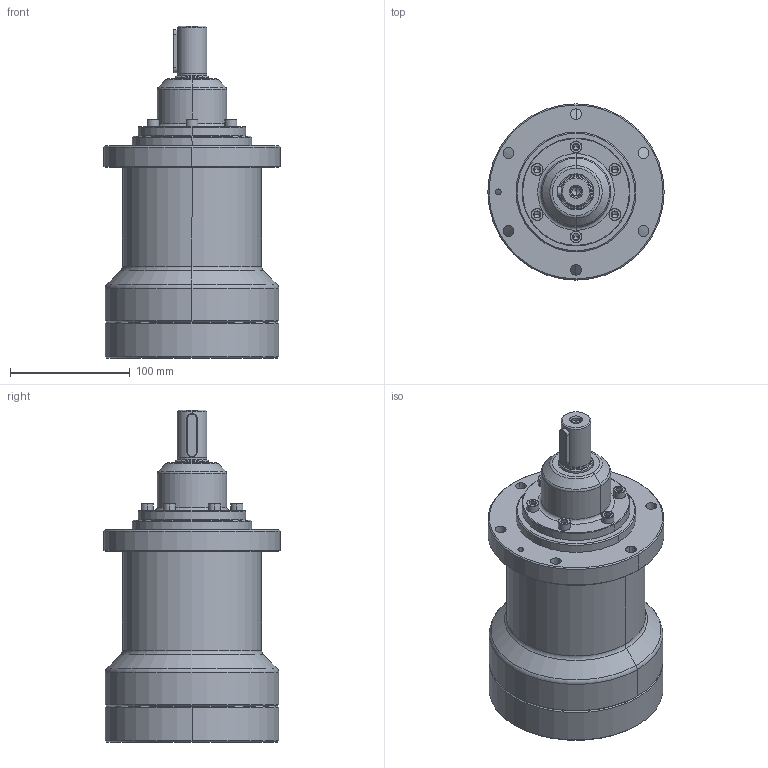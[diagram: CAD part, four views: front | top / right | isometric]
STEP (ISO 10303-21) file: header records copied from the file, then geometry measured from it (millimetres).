
FILE_DESCRIPTION((''),'2;1');
FILE_NAME('M12F43B','2023-10-19T',('HYC'),(''),'PRO/ENGINEER BY PARAMETRIC TECHNOLOGY CORPORATION, 2010280','PRO/ENGINEER BY PARAMETRIC TECHNOLOGY CORPORATION, 2010280','');
FILE_SCHEMA(('CONFIG_CONTROL_DESIGN'));
Length unit declared in the file: millimetre
Products named in the file (1): M12F43B
Bounding box: 147 x 147 x 277 mm (x, y, z)
Surface area: 164401.6 mm2 (no closed solid volume)
Topology: 0 solids, 26 shells, 377 faces, 939 edges, 562 vertices
Faces by surface type: cone 172, cylinder 94, plane 91, torus 16, bspline 4
Entity records: 12240 total; most frequent: CARTESIAN_POINT 3384, DIRECTION 2033, ORIENTED_EDGE 1576, EDGE_CURVE 900, AXIS2_PLACEMENT_3D 837, VERTEX_POINT 562, CIRCLE 464, EDGE_LOOP 437
